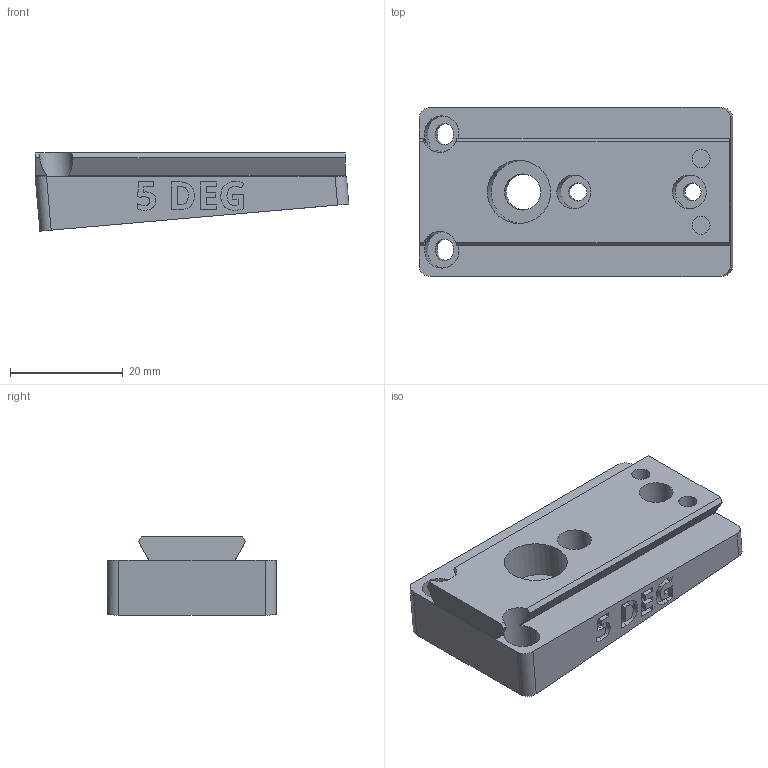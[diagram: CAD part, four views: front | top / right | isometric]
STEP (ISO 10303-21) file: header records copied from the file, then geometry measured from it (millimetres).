
FILE_DESCRIPTION(/* description */ ('STEP AP242 Edition 2','CAx-IF Rec.Pracs.---Representation and Presentation of Product Manufacturing Information (PMI)---4.0---2014-10-13','CAx-IF Rec.Pracs.---3D Tessellated Geometry---0.4---2014-09-14','2;1','CAx-IF Rec.Pracs.---User Defined Attributes---1.5---2016-08-15'),/* implementation_level */ '2;1');
FILE_NAME(/* name */ 'Camera Wedges - CAMERA MOUNTING WEDGE, POS, 5 DEG',/* time_stamp */ '2026-07-08T20:40:48Z',/* author */ (''),/* organization */ (''),/* preprocessor_version */ 'ST-DEVELOPER v20',/* originating_system */ 'ONSHAPE BY PTC INC, 1.217',/* authorisation */ ' ');
FILE_SCHEMA (('AP242_MANAGED_MODEL_BASED_3D_ENGINEERING_MIM_LF { 1 0 10303 442 3 1 4 }'));
Length unit declared in the file: metre
Products named in the file (1): CAMERA MOUNTING WEDGE, POS, 5 DEG
Bounding box: 55.65 x 30 x 13.87 mm (x, y, z)
Volume: 13329.3 mm3; surface area: 6576 mm2
Topology: 1 solids, 1 shells, 213 faces, 586 edges, 391 vertices
Faces by surface type: plane 125, cylinder 46, bspline 42
Full cylindrical faces by diameter (mm): 3.2 x4, 6 x2, 6.4 x1, 11.2 x1
Entity records: 6875 total; most frequent: CARTESIAN_POINT 1639, ORIENTED_EDGE 1150, DIRECTION 939, EDGE_CURVE 575, VERTEX_POINT 388, LINE 387, VECTOR 387, AXIS2_PLACEMENT_3D 276
